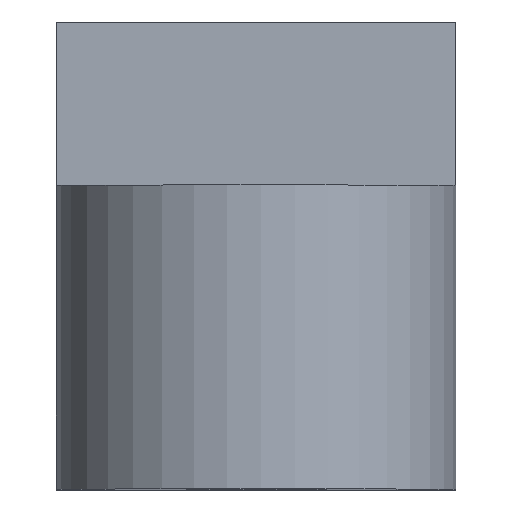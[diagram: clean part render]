
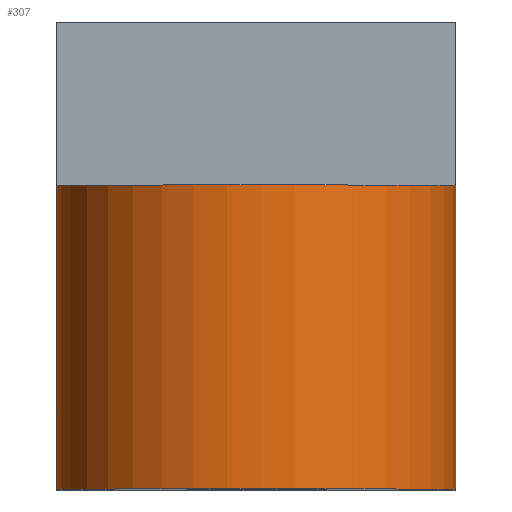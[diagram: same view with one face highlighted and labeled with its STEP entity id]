
A CAD part, top view. The second image highlights one B-rep face of the part: STEP entity #307.
In plain terms, the highlighted cylindrical face has radius 17.1 mm (diameter 34.201 mm), a partial arc.
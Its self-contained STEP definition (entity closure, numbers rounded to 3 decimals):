
#46=FACE_OUTER_BOUND('',#68,.T.);
#68=EDGE_LOOP('',(#236,#237,#238,#239));
#94=LINE('',#503,#117);
#95=LINE('',#506,#118);
#117=VECTOR('',#409,10.);
#118=VECTOR('',#412,10.);
#139=CIRCLE('',#345,17.1);
#141=CIRCLE('',#349,17.1);
#157=VERTEX_POINT('',#492);
#158=VERTEX_POINT('',#494);
#160=VERTEX_POINT('',#502);
#161=VERTEX_POINT('',#504);
#185=EDGE_CURVE('',#158,#157,#139,.T.);
#189=EDGE_CURVE('',#157,#160,#94,.T.);
#190=EDGE_CURVE('',#161,#160,#141,.T.);
#191=EDGE_CURVE('',#158,#161,#95,.T.);
#236=ORIENTED_EDGE('',*,*,#185,.T.);
#237=ORIENTED_EDGE('',*,*,#189,.T.);
#238=ORIENTED_EDGE('',*,*,#190,.F.);
#239=ORIENTED_EDGE('',*,*,#191,.F.);
#296=CYLINDRICAL_SURFACE('',#348,17.1);
#307=ADVANCED_FACE('',(#46),#296,.T.);
#345=AXIS2_PLACEMENT_3D('',#495,#399,#400);
#348=AXIS2_PLACEMENT_3D('',#501,#407,#408);
#349=AXIS2_PLACEMENT_3D('',#505,#410,#411);
#399=DIRECTION('center_axis',(0.,-1.,0.));
#400=DIRECTION('ref_axis',(1.,0.,0.));
#407=DIRECTION('center_axis',(0.,-1.,0.));
#408=DIRECTION('ref_axis',(1.,0.,0.));
#409=DIRECTION('',(0.,-1.,0.));
#410=DIRECTION('center_axis',(0.,-1.,0.));
#411=DIRECTION('ref_axis',(1.,0.,0.));
#412=DIRECTION('',(0.,-1.,0.));
#492=CARTESIAN_POINT('',(-177.,-14.,-292.));
#494=CARTESIAN_POINT('',(-142.823,-14.,-292.9));
#495=CARTESIAN_POINT('Origin',(-159.923,-14.,-292.9));
#501=CARTESIAN_POINT('Origin',(-159.923,0.,-292.9));
#502=CARTESIAN_POINT('',(-177.,-40.,-292.));
#503=CARTESIAN_POINT('',(-177.,0.,-292.));
#504=CARTESIAN_POINT('',(-142.823,-40.,-292.9));
#505=CARTESIAN_POINT('Origin',(-159.923,-40.,-292.9));
#506=CARTESIAN_POINT('',(-142.823,0.,-292.9));
